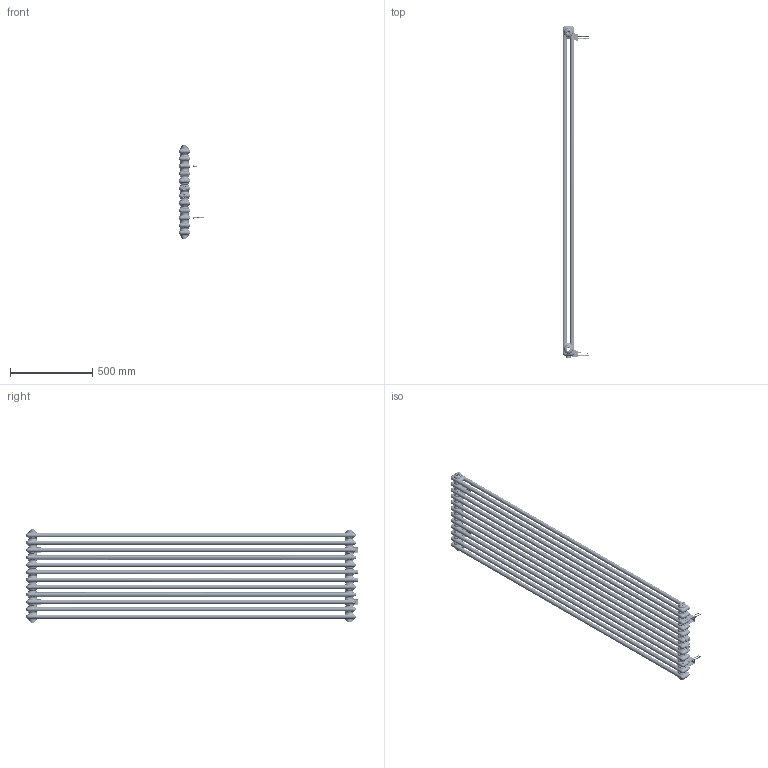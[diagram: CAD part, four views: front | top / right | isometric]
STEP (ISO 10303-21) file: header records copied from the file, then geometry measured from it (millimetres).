
FILE_DESCRIPTION(/* description */ (''),/* implementation_level */ '2;1');
FILE_NAME(/* name */ 'CL02 2000x560 D50',/* time_stamp */ '2023-09-09T16:16:01+08:00',/* author */ (''),/* organization */ (''),/* preprocessor_version */ 'ST-DEVELOPER v9',/* originating_system */ 'UGS - NX 4.0',/* authorisation */ '');
FILE_SCHEMA (('CONFIG_CONTROL_DESIGN'));
Products named in the file (1): AdmiF21Fozru
Bounding box: 161.6 x 2016 x 572 mm (x, y, z)
Volume: 5501804.8 mm3; surface area: 7293681.9 mm2
Topology: 45 solids, 45 shells, 4357 faces, 10531 edges, 6281 vertices
Faces by surface type: bspline 1299, cylinder 1055, plane 916, torus 692, cone 395
Full cylindrical faces by diameter (mm): 19 x2, 25 x2
Entity records: 275262 total; most frequent: CARTESIAN_POINT 183566, ORIENTED_EDGE 21026, DIRECTION 16865, EDGE_CURVE 10513, AXIS2_PLACEMENT_3D 7085, VERTEX_POINT 6283, EDGE_LOOP 4568, ADVANCED_FACE 4357
